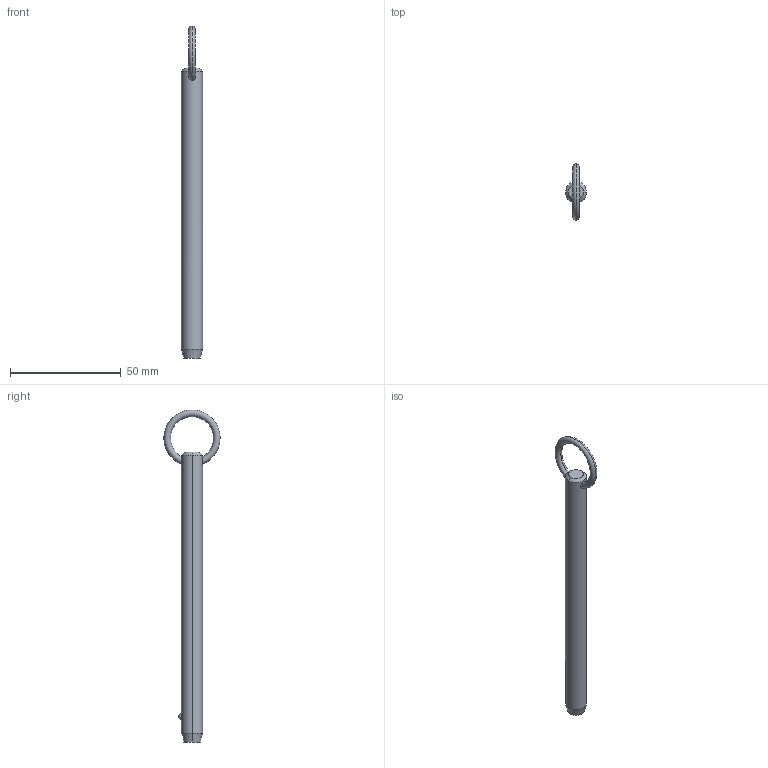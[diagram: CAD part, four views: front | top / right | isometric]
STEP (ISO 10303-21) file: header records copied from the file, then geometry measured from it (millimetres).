
FILE_DESCRIPTION (( 'STEP AP203' ), '1' );
FILE_NAME ('P1250.037-440.step', '2019-07-29T20:11:09', ( '' ), ( '' ), 'SwSTEP 2.0', 'SolidWorks 2017', '' );
FILE_SCHEMA (( 'CONFIG_CONTROL_DESIGN' ));
Length unit declared in the file: millimetre
Products named in the file (1): P1250.037-440
Bounding box: 9.52 x 25.39 x 149.9 mm (x, y, z)
Volume: 9665.2 mm3; surface area: 4555.7 mm2
Topology: 1 solids, 1 shells, 12 faces, 28 edges, 17 vertices
Faces by surface type: cone 4, torus 2, sphere 2, cylinder 2, plane 2
Entity records: 523 total; most frequent: CARTESIAN_POINT 190, DIRECTION 56, ORIENTED_EDGE 48, AXIS2_PLACEMENT_3D 25, EDGE_CURVE 24, EDGE_LOOP 15, VERTEX_POINT 15, CIRCLE 12
